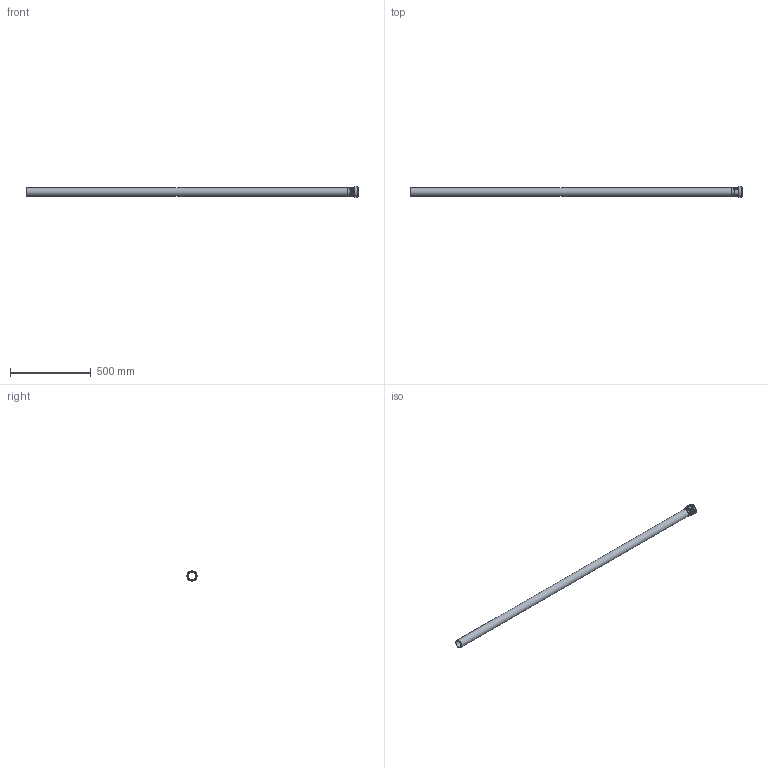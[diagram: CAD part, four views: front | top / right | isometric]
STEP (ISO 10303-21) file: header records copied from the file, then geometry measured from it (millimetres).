
FILE_DESCRIPTION(/* description */ (''),/* implementation_level */ '2;1');
FILE_NAME(/* name */ 'H:\Geberit-Teile\Export\PP_Rohr\stp\393206.stp',/* time_stamp */ '2017-02-13T16:05:35+01:00',/* author */ ('seihe2'),/* organization */ (''),/* preprocessor_version */ 'ST-DEVELOPER v15.2',/* originating_system */ 'Autodesk Inventor 2014',/* authorisation */ '');
FILE_SCHEMA (('AUTOMOTIVE_DESIGN { 1 0 10303 214 3 1 1 }'));
Length unit declared in the file: millimetre
Products named in the file (1): 393206
Bounding box: 2050.8 x 65.1 x 65.1 mm (x, y, z)
Volume: 922640.7 mm3; surface area: 619330.9 mm2
Topology: 2 solids, 2 shells, 38 faces, 82 edges, 57 vertices
Faces by surface type: torus 16, cylinder 10, plane 8, cone 2, bspline 2
Full cylindrical faces by diameter (mm): 44.15 x2, 50.15 x2, 50.8 x1, 52 x1, 56.3 x1, 57.5 x1, 59.9 x1, 65.1 x1
Entity records: 2101 total; most frequent: CARTESIAN_POINT 1309, DIRECTION 132, ORIENTED_EDGE 130, EDGE_LOOP 68, AXIS2_PLACEMENT_3D 66, EDGE_CURVE 65, VERTEX_POINT 57, STYLED_ITEM 40
